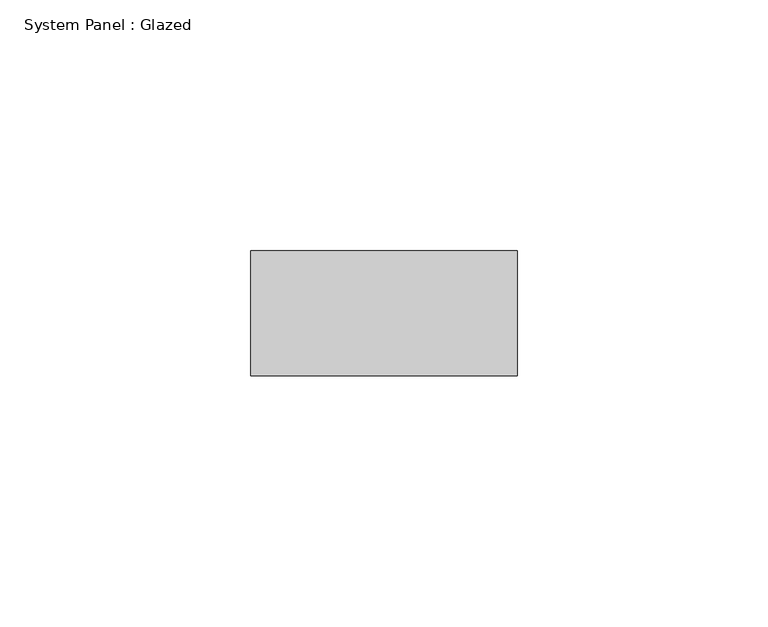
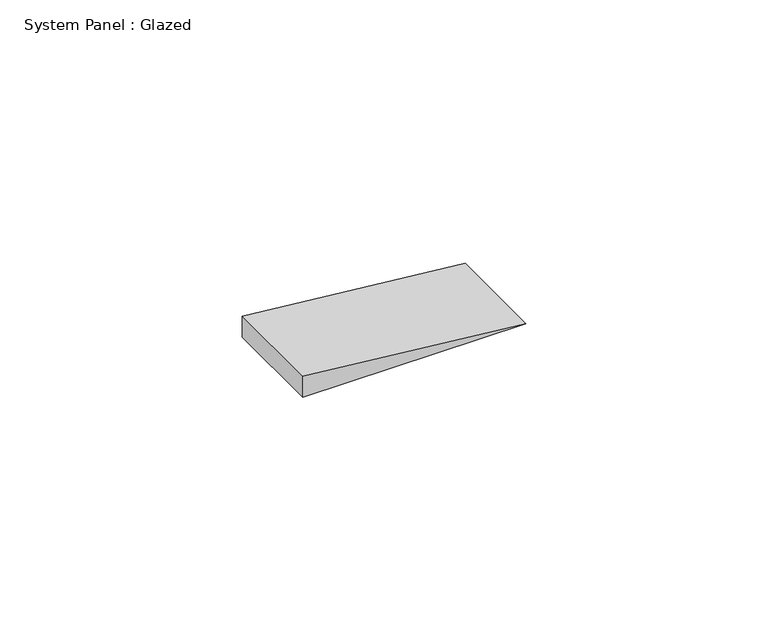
"""IFC4 building model written with IfcOpenShell, lengths in millimetres: plate geometry, System Panel : Glazed."""

from ifc_helpers import new_model, si_unit, frame, origin, place, context, project, spatial, polyline, outline, extrude, source, transform, mapped, element, save


def system_panel_glazed_fa087cb2(model_context):
    return source(origin(), model_context, "Body", "SweptSolid", [
        extrude(outline(polyline([(0.0, -26.6000504), (0.0, 26.6000504), (5.349256, -26.6000504), (0.0, -26.6000504)])), frame((0.0, 24.5, 0.0), z_axis=(0.0, 1.0, 0.0), x_axis=(0.0, 0.0, 1.0)), (0.0, 0.0, 1.0), 25.0),
    ])


if __name__ == "__main__":
    model = new_model("IFC4")
    model_context = context("Model", 3, world=origin())
    ifc_project = project(units=[si_unit("LENGTHUNIT", "METRE", prefix="MILLI")], contexts=[model_context])
    site = spatial("IfcSite", under=ifc_project)
    building = spatial("IfcBuilding", under=site)
    placement = place(None, origin())
    system_panel_glazed_shape = system_panel_glazed_fa087cb2(model_context)
    element("IfcPlate", 1, ObjectType="System Panel : Glazed", at=placement, inside=building, context=model_context, shape_type="MappedRepresentation", body=[
        mapped(system_panel_glazed_shape, transform((0.0, 0.0, 0.0), x_axis=(1.0, 0.0, 0.0), y_axis=(0.0, 1.0, 0.0), z_axis=(0.0, 0.0, 1.0))),
    ])
    save(model, "model.ifc")
